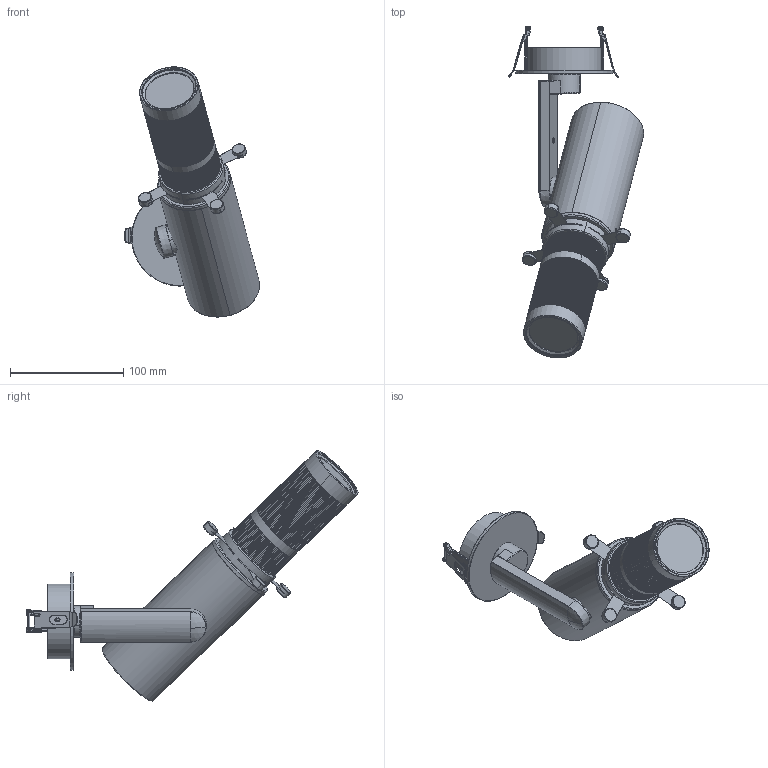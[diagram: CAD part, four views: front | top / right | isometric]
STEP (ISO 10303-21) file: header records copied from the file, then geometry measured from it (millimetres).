
FILE_DESCRIPTION (( 'STEP AP203' ), '1' );
FILE_NAME ('MODI-3FP-3SPM.R.XX.STEP', '2025-05-07T06:59:44', ( '' ), ( '' ), 'SwSTEP 2.0', 'SolidWorks 2024', '' );
FILE_SCHEMA (( 'CONFIG_CONTROL_DESIGN' ));
Length unit declared in the file: millimetre
Products named in the file (4): MODI-3FP-3SPM.R.XX; MODI-3-Luminaire_body.step; MODI-3-Framing_projector_lens.step; MODI-3-Single_point_base_recessed.step
Assembly tree (3 placements, depth 2):
  MODI-3FP-3SPM.R.XX
    MODI-3-Luminaire_body.step
    MODI-3-Single_point_base_recessed.step
    MODI-3-Framing_projector_lens.step
Bounding box: 119.33 x 293.15 x 220.94 mm (x, y, z)
Volume: 471991.6 mm3; surface area: 193134.3 mm2
Topology: 10 solids, 36 shells, 2486 faces, 6884 edges, 4480 vertices
Faces by surface type: plane 1196, cylinder 927, bspline 250, torus 48, cone 47, sphere 18
Entity records: 110933 total; most frequent: CARTESIAN_POINT 48852, ORIENTED_EDGE 13768, DIRECTION 11830, EDGE_CURVE 6884, VERTEX_POINT 4480, LINE 4016, VECTOR 4016, AXIS2_PLACEMENT_3D 3907
